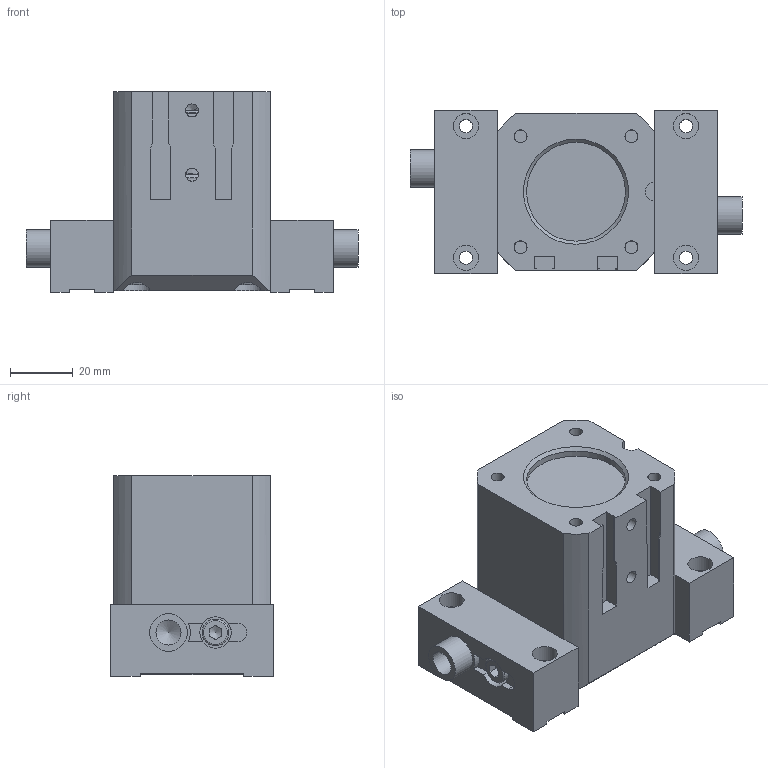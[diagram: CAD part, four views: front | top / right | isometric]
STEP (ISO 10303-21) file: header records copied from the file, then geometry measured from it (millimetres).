
FILE_DESCRIPTION((''),'2;1');
FILE_NAME('T:\CAD\Standard\Daten\3D-Datenbank\GP\4 - 3D-CAD-Daten GP 050-125\GP063\step-Daten\G-GP063-l1-GS+UB closed.stp','2013-11-07T14:40:50',('Dirk'),(''),'Autodesk Inventor 2011','Autodesk Inventor 2011','');
FILE_SCHEMA(('AUTOMOTIVE_DESIGN { 1 0 10303 214 1 1 1 1 }'));
Length unit declared in the file: millimetre
Products named in the file (1): Bauteil90
Bounding box: 105.84 x 52 x 64 mm (x, y, z)
Volume: 168500.5 mm3; surface area: 57246.1 mm2
Topology: 1 solids, 15 shells, 395 faces, 1038 edges, 672 vertices
Faces by surface type: plane 226, cylinder 112, cone 34, torus 22, bspline 1
Full cylindrical faces by diameter (mm): 2.459 x2, 4.134 x12, 5 x2, 5.5 x2, 6.647 x1, 8 x7, 8.5 x7, 10 x8, 12 x8, 14 x7, 16 x2, 18.6 x2, 21.1 x2, 25 x1, 28.9 x2, 31.5 x1, 33 x1, 33.6 x2, 35.5 x2, 40 x5
Entity records: 12665 total; most frequent: CARTESIAN_POINT 3388, DIRECTION 1826, ORIENTED_EDGE 1656, EDGE_CURVE 828, AXIS2_PLACEMENT_3D 700, VERTEX_POINT 594, EDGE_LOOP 593, VECTOR 426
